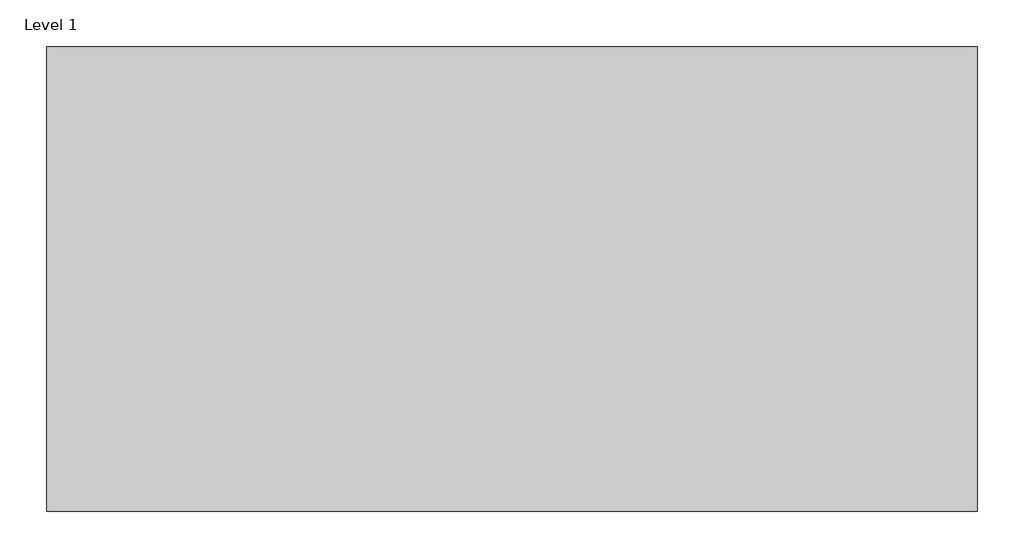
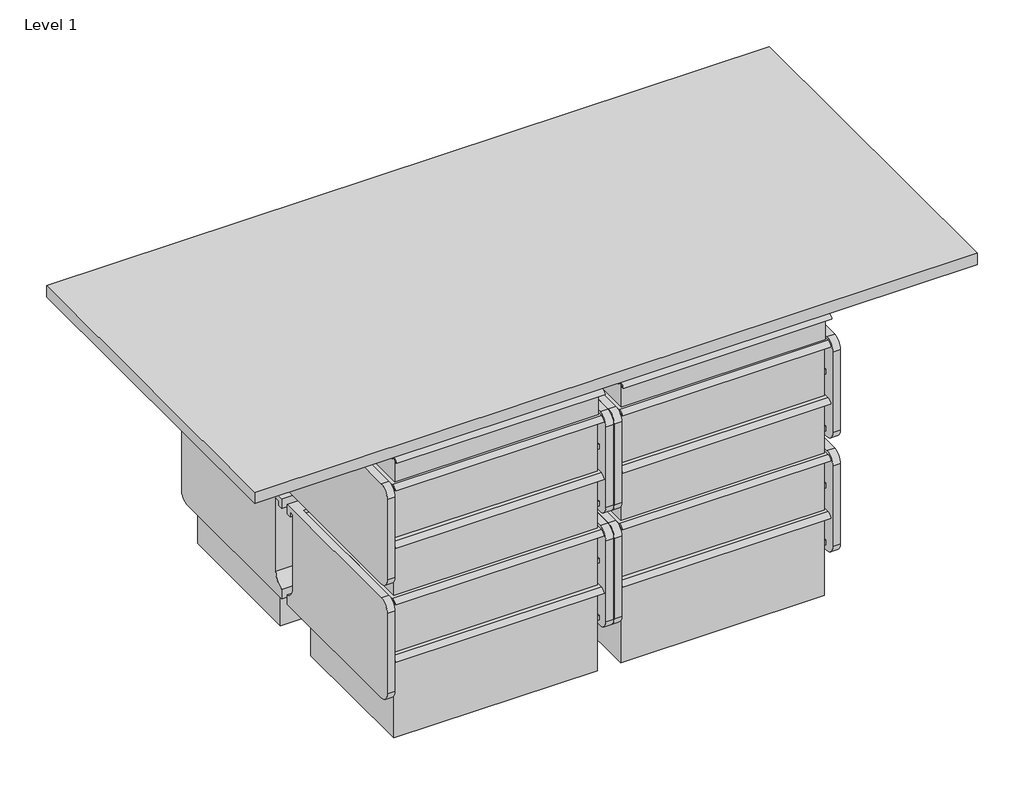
# One storey, incomplete: 29 furniture elements.
"""IFC4 building model written with IfcOpenShell, lengths in millimetres."""

from ifc_helpers import new_model, si_unit, origin, place, context, project, spatial, transform, mapped, element, save
from components import furniture_51fb69ba, furniture_30ac351e, furniture_e68dc01e, a_3_71a075e6, b_6_8e674aa7, b_6_dce5e656, b_6_d49a60ba, c_9_bea1e051

model = new_model("IFC4")

# Units and contexts
model_context = context("Model", 3, world=origin())
ifc_project = project(units=[si_unit("LENGTHUNIT", "METRE", prefix="MILLI")], contexts=[model_context])

# Site, building, storey
site = spatial("IfcSite", under=ifc_project)
building = spatial("IfcBuilding", under=site)
storey = spatial("IfcBuildingStorey", under=building, Name="Level 1", Elevation=0.0)

# Furniture
placement = place(None, origin())
furniture_shape = furniture_51fb69ba(model_context)
element("IfcFurniture", 1, ObjectType="HermanMiller_CoStruc_C4700_RectangularWorkTableSurface : Lam 36D 72W for 48W SS Base", at=placement, inside=storey, context=model_context, shape_type="MappedRepresentation", body=[
    mapped(furniture_shape, transform((0.0, 0.0, 0.0), x_axis=(1.0, 0.0, 0.0), y_axis=(0.0, 1.0, 0.0), z_axis=(0.0, 0.0, 1.0))),
])
furniture_2_shape = furniture_30ac351e(model_context)
element("IfcFurniture", 2, ObjectType="HermanMiller_CoStruc_CO205_CFrame : 10H x 17D x 22W", at=placement, inside=storey, context=model_context, shape_type="MappedRepresentation", body=[
    mapped(furniture_2_shape, transform((418.5387849, -365.6515003, 0.0), x_axis=(-1.0, 0.0, 0.0), y_axis=(0.0, -1.0, 0.0), z_axis=(0.0, 0.0, 1.0))),
])
element("IfcFurniture", 3, ObjectType="HermanMiller_CoStruc_CO205_CFrame : 10H x 17D x 22W", at=placement, inside=storey, context=model_context, shape_type="MappedRepresentation", body=[
    mapped(furniture_2_shape, transform((991.6262849, -365.6515003, 0.0), x_axis=(-1.0, 0.0, 0.0), y_axis=(0.0, -1.0, 0.0), z_axis=(0.0, 0.0, 1.0))),
])
element("IfcFurniture", 4, ObjectType="HermanMiller_CoStruc_CO205_CFrame : 10H x 17D x 22W", at=placement, inside=storey, context=model_context, shape_type="MappedRepresentation", body=[
    mapped(furniture_2_shape, transform((801.7508751, -551.7482397, 0.0), x_axis=(1.0, 0.0, 0.0), y_axis=(0.0, 1.0, 0.0), z_axis=(0.0, 0.0, 1.0))),
])
element("IfcFurniture", 5, ObjectType="HermanMiller_CoStruc_CO205_CFrame : 10H x 17D x 22W", at=placement, inside=storey, context=model_context, shape_type="MappedRepresentation", body=[
    mapped(furniture_2_shape, transform((228.6633751, -551.7482397, 0.0), x_axis=(1.0, 0.0, 0.0), y_axis=(0.0, 1.0, 0.0), z_axis=(0.0, 0.0, 1.0))),
])
furniture_3_shape = furniture_e68dc01e(model_context)
element("IfcFurniture", 6, ObjectType="HermanMiller_CoStruc_CO205_CFrame : 10H x 17D x 22W", at=placement, inside=storey, context=model_context, shape_type="MappedRepresentation", body=[
    mapped(furniture_3_shape, transform((418.5387849, -365.6515003, 0.0), x_axis=(-1.0, 0.0, 0.0), y_axis=(0.0, -1.0, 0.0), z_axis=(0.0, 0.0, 1.0))),
])
element("IfcFurniture", 7, ObjectType="HermanMiller_CoStruc_CO205_CFrame : 10H x 17D x 22W", at=placement, inside=storey, context=model_context, shape_type="MappedRepresentation", body=[
    mapped(furniture_3_shape, transform((991.6262849, -365.6515003, 0.0), x_axis=(-1.0, 0.0, 0.0), y_axis=(0.0, -1.0, 0.0), z_axis=(0.0, 0.0, 1.0))),
])
element("IfcFurniture", 8, ObjectType="HermanMiller_CoStruc_CO205_CFrame : 10H x 17D x 22W", at=placement, inside=storey, context=model_context, shape_type="MappedRepresentation", body=[
    mapped(furniture_3_shape, transform((801.7508751, -551.7482397, 0.0), x_axis=(1.0, 0.0, 0.0), y_axis=(0.0, 1.0, 0.0), z_axis=(0.0, 0.0, 1.0))),
])
element("IfcFurniture", 9, ObjectType="HermanMiller_CoStruc_CO205_CFrame : 10H x 17D x 22W", at=placement, inside=storey, context=model_context, shape_type="MappedRepresentation", body=[
    mapped(furniture_3_shape, transform((228.6633751, -551.7482397, 0.0), x_axis=(1.0, 0.0, 0.0), y_axis=(0.0, 1.0, 0.0), z_axis=(0.0, 0.0, 1.0))),
])
a_3_shape = a_3_71a075e6(model_context)
element("IfcFurniture", 10, ObjectType="HermanMiller_CoStruc_CO207_Drawer : A - 3", at=placement, inside=storey, context=model_context, shape_type="MappedRepresentation", body=[
    mapped(a_3_shape, transform((896.7559283, -202.29322, 0.0), x_axis=(-1.0, 0.0, 0.0), y_axis=(0.0, -1.0, 0.0), z_axis=(0.0, 0.0, 1.0))),
])
element("IfcFurniture", 11, ObjectType="HermanMiller_CoStruc_CO207_Drawer : A - 3", at=placement, inside=storey, context=model_context, shape_type="MappedRepresentation", body=[
    mapped(a_3_shape, transform((323.6684283, -202.29322, 0.0), x_axis=(-1.0, 0.0, 0.0), y_axis=(0.0, -1.0, 0.0), z_axis=(0.0, 0.0, 1.0))),
])
element("IfcFurniture", 12, ObjectType="HermanMiller_CoStruc_CO207_Drawer : A - 3", at=placement, inside=storey, context=model_context, shape_type="MappedRepresentation", body=[
    mapped(a_3_shape, transform((896.6212317, -715.10652, 0.0), x_axis=(1.0, 0.0, 0.0), y_axis=(0.0, 1.0, 0.0), z_axis=(0.0, 0.0, 1.0))),
])
element("IfcFurniture", 13, ObjectType="HermanMiller_CoStruc_CO207_Drawer : A - 3", at=placement, inside=storey, context=model_context, shape_type="MappedRepresentation", body=[
    mapped(a_3_shape, transform((323.5337317, -715.10652, 0.0), x_axis=(1.0, 0.0, 0.0), y_axis=(0.0, 1.0, 0.0), z_axis=(0.0, 0.0, 1.0))),
])
b_6_shape = b_6_8e674aa7(model_context)
element("IfcFurniture", 14, ObjectType="HermanMiller_CoStruc_CO207_Drawer : B - 6", at=placement, inside=storey, context=model_context, shape_type="MappedRepresentation", body=[
    mapped(b_6_shape, transform((323.6684283, -206.26324, 0.0), x_axis=(-1.0, 0.0, 0.0), y_axis=(0.0, -1.0, 0.0), z_axis=(0.0, 0.0, 1.0))),
])
element("IfcFurniture", 15, ObjectType="HermanMiller_CoStruc_CO207_Drawer : B - 6", at=placement, inside=storey, context=model_context, shape_type="MappedRepresentation", body=[
    mapped(b_6_shape, transform((896.7559283, -206.26324, 0.0), x_axis=(-1.0, 0.0, 0.0), y_axis=(0.0, -1.0, 0.0), z_axis=(0.0, 0.0, 1.0))),
])
element("IfcFurniture", 16, ObjectType="HermanMiller_CoStruc_CO207_Drawer : B - 6", at=placement, inside=storey, context=model_context, shape_type="MappedRepresentation", body=[
    mapped(b_6_shape, transform((896.6212317, -711.13904, 0.0), x_axis=(1.0, 0.0, 0.0), y_axis=(0.0, 1.0, 0.0), z_axis=(0.0, 0.0, 1.0))),
])
element("IfcFurniture", 17, ObjectType="HermanMiller_CoStruc_CO207_Drawer : B - 6", at=placement, inside=storey, context=model_context, shape_type="MappedRepresentation", body=[
    mapped(b_6_shape, transform((323.5337317, -711.13904, 0.0), x_axis=(1.0, 0.0, 0.0), y_axis=(0.0, 1.0, 0.0), z_axis=(0.0, 0.0, 1.0))),
])
b_6_2_shape = b_6_dce5e656(model_context)
element("IfcFurniture", 18, ObjectType="HermanMiller_CoStruc_CO207_Drawer : B - 6", at=placement, inside=storey, context=model_context, shape_type="MappedRepresentation", body=[
    mapped(b_6_2_shape, transform((323.6684283, -206.26324, 0.0), x_axis=(-1.0, 0.0, 0.0), y_axis=(0.0, -1.0, 0.0), z_axis=(0.0, 0.0, 1.0))),
])
element("IfcFurniture", 19, ObjectType="HermanMiller_CoStruc_CO207_Drawer : B - 6", at=placement, inside=storey, context=model_context, shape_type="MappedRepresentation", body=[
    mapped(b_6_2_shape, transform((896.7559283, -206.26324, 0.0), x_axis=(-1.0, 0.0, 0.0), y_axis=(0.0, -1.0, 0.0), z_axis=(0.0, 0.0, 1.0))),
])
element("IfcFurniture", 20, ObjectType="HermanMiller_CoStruc_CO207_Drawer : B - 6", at=placement, inside=storey, context=model_context, shape_type="MappedRepresentation", body=[
    mapped(b_6_2_shape, transform((896.6212317, -711.13904, 0.0), x_axis=(1.0, 0.0, 0.0), y_axis=(0.0, 1.0, 0.0), z_axis=(0.0, 0.0, 1.0))),
])
element("IfcFurniture", 21, ObjectType="HermanMiller_CoStruc_CO207_Drawer : B - 6", at=placement, inside=storey, context=model_context, shape_type="MappedRepresentation", body=[
    mapped(b_6_2_shape, transform((323.5337317, -711.13904, 0.0), x_axis=(1.0, 0.0, 0.0), y_axis=(0.0, 1.0, 0.0), z_axis=(0.0, 0.0, 1.0))),
])
b_6_3_shape = b_6_d49a60ba(model_context)
element("IfcFurniture", 22, ObjectType="HermanMiller_CoStruc_CO207_Drawer : B - 6", at=placement, inside=storey, context=model_context, shape_type="MappedRepresentation", body=[
    mapped(b_6_3_shape, transform((323.6684283, -206.26324, 0.0), x_axis=(-1.0, 0.0, 0.0), y_axis=(0.0, -1.0, 0.0), z_axis=(0.0, 0.0, 1.0))),
])
element("IfcFurniture", 23, ObjectType="HermanMiller_CoStruc_CO207_Drawer : B - 6", at=placement, inside=storey, context=model_context, shape_type="MappedRepresentation", body=[
    mapped(b_6_3_shape, transform((896.7559283, -206.26324, 0.0), x_axis=(-1.0, 0.0, 0.0), y_axis=(0.0, -1.0, 0.0), z_axis=(0.0, 0.0, 1.0))),
])
element("IfcFurniture", 24, ObjectType="HermanMiller_CoStruc_CO207_Drawer : B - 6", at=placement, inside=storey, context=model_context, shape_type="MappedRepresentation", body=[
    mapped(b_6_3_shape, transform((896.6212317, -711.13904, 0.0), x_axis=(1.0, 0.0, 0.0), y_axis=(0.0, 1.0, 0.0), z_axis=(0.0, 0.0, 1.0))),
])
element("IfcFurniture", 25, ObjectType="HermanMiller_CoStruc_CO207_Drawer : B - 6", at=placement, inside=storey, context=model_context, shape_type="MappedRepresentation", body=[
    mapped(b_6_3_shape, transform((323.5337317, -711.13904, 0.0), x_axis=(1.0, 0.0, 0.0), y_axis=(0.0, 1.0, 0.0), z_axis=(0.0, 0.0, 1.0))),
])
c_9_shape = c_9_bea1e051(model_context)
element("IfcFurniture", 26, ObjectType="HermanMiller_CoStruc_CO207_Drawer : C - 9", at=placement, inside=storey, context=model_context, shape_type="MappedRepresentation", body=[
    mapped(c_9_shape, transform((896.7559283, -206.26324, 0.0), x_axis=(-1.0, 0.0, 0.0), y_axis=(0.0, -1.0, 0.0), z_axis=(0.0, 0.0, 1.0))),
])
element("IfcFurniture", 27, ObjectType="HermanMiller_CoStruc_CO207_Drawer : C - 9", at=placement, inside=storey, context=model_context, shape_type="MappedRepresentation", body=[
    mapped(c_9_shape, transform((323.6684283, -206.26324, 0.0), x_axis=(-1.0, 0.0, 0.0), y_axis=(0.0, -1.0, 0.0), z_axis=(0.0, 0.0, 1.0))),
])
element("IfcFurniture", 28, ObjectType="HermanMiller_CoStruc_CO207_Drawer : C - 9", at=placement, inside=storey, context=model_context, shape_type="MappedRepresentation", body=[
    mapped(c_9_shape, transform((896.6212317, -711.13904, 0.0), x_axis=(1.0, 0.0, 0.0), y_axis=(0.0, 1.0, 0.0), z_axis=(0.0, 0.0, 1.0))),
])
element("IfcFurniture", 29, ObjectType="HermanMiller_CoStruc_CO207_Drawer : C - 9", at=placement, inside=storey, context=model_context, shape_type="MappedRepresentation", body=[
    mapped(c_9_shape, transform((323.5337317, -711.13904, 0.0), x_axis=(1.0, 0.0, 0.0), y_axis=(0.0, 1.0, 0.0), z_axis=(0.0, 0.0, 1.0))),
])

save(model, "model.ifc")
